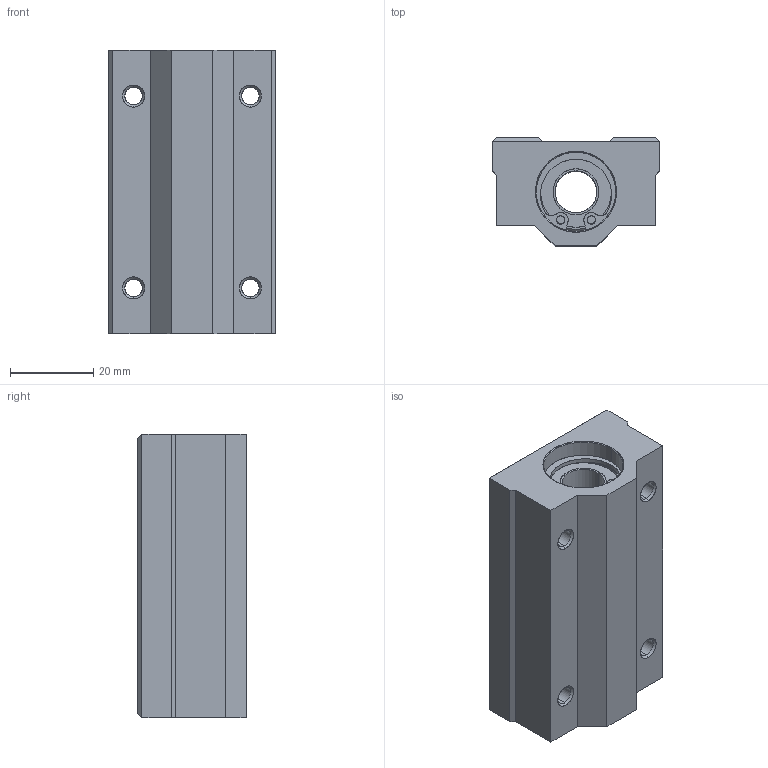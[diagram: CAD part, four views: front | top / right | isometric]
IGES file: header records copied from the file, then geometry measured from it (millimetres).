
Start section: SolidWorks IGES file using analytic representation for surfaces
Global section: file name: D:\SOLIDWORKS PROEKTI\freelance cnc cat\VTORA SERIJA\SC-LUU\SC10LUU.IGS; native system: SolidWorks 2016; preprocessor: SolidWorks 2016; author: User; date: 170806.101421; units: millimetre
Bounding box: 40 x 26 x 68 mm (x, y, z)
Surface area: 21870.5 mm2 (no closed solid volume)
Topology: 0 solids, 0 shells, 436 faces, 10236 edges, 12450 vertices
Faces by surface type: bspline 298, revolution 138
